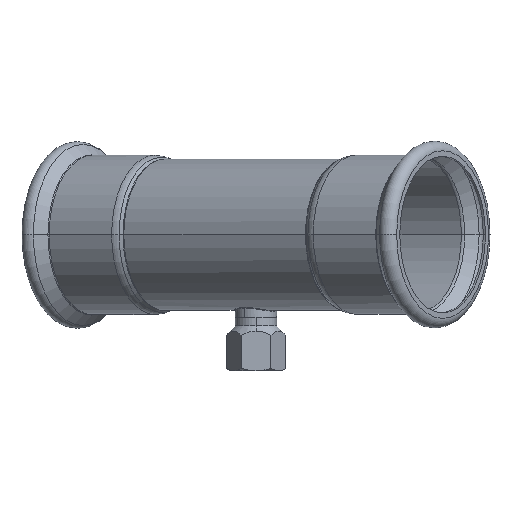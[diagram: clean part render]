
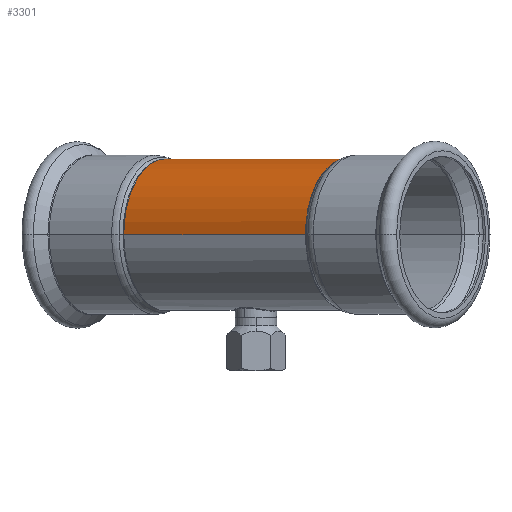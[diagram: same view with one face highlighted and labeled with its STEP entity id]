
A CAD part, top view. The second image highlights one B-rep face of the part: STEP entity #3301.
In plain terms, the highlighted cylindrical face has radius 43.95 mm (diameter 87.9 mm), a partial arc.
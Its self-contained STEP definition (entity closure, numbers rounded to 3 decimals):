
#49 = EDGE_CURVE ( 'NONE', #3366, #2805, #383, .T. ) ;
#51 = VERTEX_POINT ( 'NONE', #779 ) ;
#74 = EDGE_CURVE ( 'NONE', #51, #763, #532, .T. ) ;
#324 = AXIS2_PLACEMENT_3D ( 'NONE', #1962, #2872, #2550 ) ;
#383 = LINE ( 'NONE', #2730, #2345 ) ;
#532 = LINE ( 'NONE', #3692, #2747 ) ;
#763 = VERTEX_POINT ( 'NONE', #1844 ) ;
#779 = CARTESIAN_POINT ( 'NONE',  ( 63.056, 0., -43.95 ) ) ;
#822 = DIRECTION ( 'NONE',  ( -1., 0., 0. ) ) ;
#1295 = ORIENTED_EDGE ( 'NONE', *, *, #74, .F. ) ;
#1354 = EDGE_LOOP ( 'NONE', ( #1295, #2058, #2773, #1629 ) ) ;
#1578 = CARTESIAN_POINT ( 'NONE',  ( -63.056, 0., 0. ) ) ;
#1629 = ORIENTED_EDGE ( 'NONE', *, *, #1891, .F. ) ;
#1799 = DIRECTION ( 'NONE',  ( -1., 0., 0. ) ) ;
#1831 = AXIS2_PLACEMENT_3D ( 'NONE', #1578, #2559, #3469 ) ;
#1844 = CARTESIAN_POINT ( 'NONE',  ( -63.056, 0., -43.95 ) ) ;
#1891 = EDGE_CURVE ( 'NONE', #763, #2805, #1909, .T. ) ;
#1909 = CIRCLE ( 'NONE', #1831, 43.95 ) ;
#1962 = CARTESIAN_POINT ( 'NONE',  ( 63.056, 0., 0. ) ) ;
#2058 = ORIENTED_EDGE ( 'NONE', *, *, #3611, .T. ) ;
#2345 = VECTOR ( 'NONE', #822, 1000. ) ;
#2550 = DIRECTION ( 'NONE',  ( 0., 0., 1. ) ) ;
#2559 = DIRECTION ( 'NONE',  ( -1., 0., 0. ) ) ;
#2587 = DIRECTION ( 'NONE',  ( -1., 0., 0. ) ) ;
#2730 = CARTESIAN_POINT ( 'NONE',  ( 27.146, 0., 43.95 ) ) ;
#2747 = VECTOR ( 'NONE', #1799, 1000. ) ;
#2773 = ORIENTED_EDGE ( 'NONE', *, *, #49, .T. ) ;
#2805 = VERTEX_POINT ( 'NONE', #3830 ) ;
#2872 = DIRECTION ( 'NONE',  ( -1., 0., 0. ) ) ;
#2906 = DIRECTION ( 'NONE',  ( 0., 0., 1. ) ) ;
#2957 = CARTESIAN_POINT ( 'NONE',  ( 63.056, 0., 43.95 ) ) ;
#3082 = CIRCLE ( 'NONE', #324, 43.95 ) ;
#3231 = CYLINDRICAL_SURFACE ( 'NONE', #3397, 43.95 ) ;
#3259 = CARTESIAN_POINT ( 'NONE',  ( 27.146, 0., 0. ) ) ;
#3301 = ADVANCED_FACE ( 'NONE', ( #3327 ), #3231, .T. ) ;
#3327 = FACE_OUTER_BOUND ( 'NONE', #1354, .T. ) ;
#3366 = VERTEX_POINT ( 'NONE', #2957 ) ;
#3397 = AXIS2_PLACEMENT_3D ( 'NONE', #3259, #2587, #2906 ) ;
#3469 = DIRECTION ( 'NONE',  ( 0., 0., 1. ) ) ;
#3611 = EDGE_CURVE ( 'NONE', #51, #3366, #3082, .T. ) ;
#3692 = CARTESIAN_POINT ( 'NONE',  ( 27.146, 0., -43.95 ) ) ;
#3830 = CARTESIAN_POINT ( 'NONE',  ( -63.056, 0., 43.95 ) ) ;
